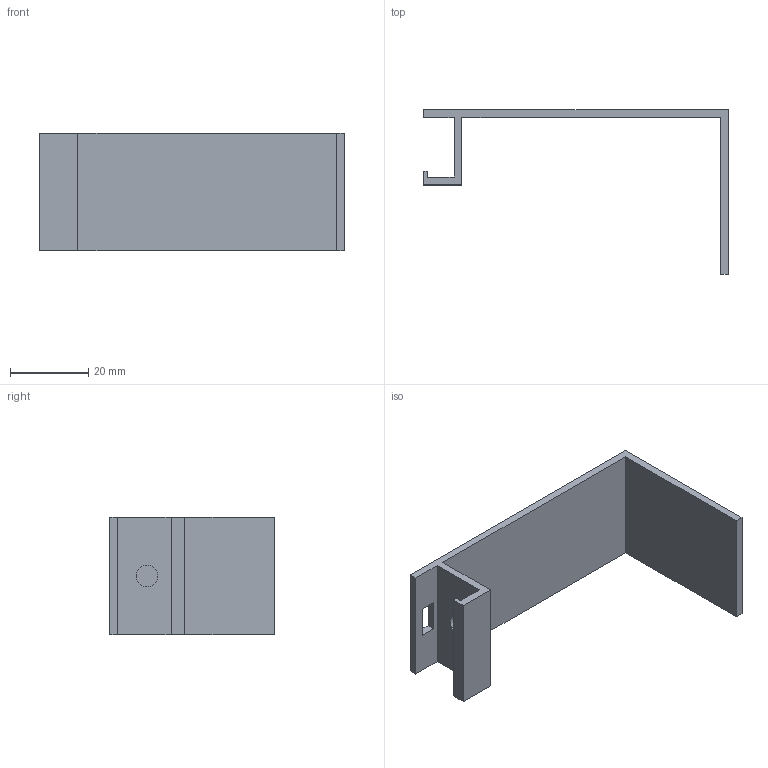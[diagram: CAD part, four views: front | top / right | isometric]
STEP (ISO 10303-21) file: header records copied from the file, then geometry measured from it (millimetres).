
FILE_DESCRIPTION(/* description */ (''),/* implementation_level */ '2;1');
FILE_NAME(/* name */ 'claw_1v2_kuchnia_mirror v5.step',/* time_stamp */ '2026-04-10T14:26:34+02:00',/* author */ (''),/* organization */ (''),/* preprocessor_version */ 'ST-DEVELOPER v20.1',/* originating_system */ 'Autodesk Translation Framework v14.24.0.0',/* authorisation */ '');
FILE_SCHEMA (('AUTOMOTIVE_DESIGN { 1 0 10303 214 3 1 1 }'));
Length unit declared in the file: millimetre
Products named in the file (1): (Niezapisany)
Bounding box: 77.8 x 42 x 30 mm (x, y, z)
Volume: 8496.6 mm3; surface area: 9320 mm2
Topology: 1 solids, 1 shells, 21 faces, 57 edges, 38 vertices
Faces by surface type: plane 20, cylinder 1
Full cylindrical faces by diameter (mm): 5.5 x1
Entity records: 694 total; most frequent: CARTESIAN_POINT 117, ORIENTED_EDGE 114, DIRECTION 103, EDGE_CURVE 57, LINE 55, VECTOR 55, VERTEX_POINT 38, EDGE_LOOP 25
